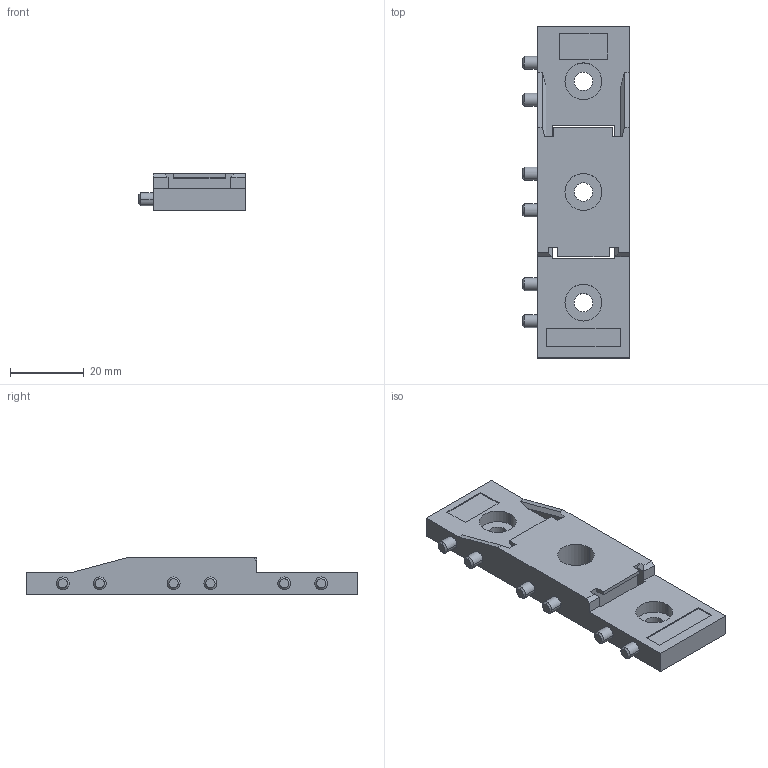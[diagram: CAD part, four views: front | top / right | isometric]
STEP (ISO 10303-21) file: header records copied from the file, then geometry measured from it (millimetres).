
FILE_DESCRIPTION (( 'STEP AP203' ), '1' );
FILE_NAME ('afp0803.STEP', '2015-07-03T01:57:18', ( '' ), ( '' ), 'SwSTEP 2.0', 'SolidWorks 2010', '' );
FILE_SCHEMA (( 'CONFIG_CONTROL_DESIGN' ));
Length unit declared in the file: millimetre
Products named in the file (1): afp0803
Bounding box: 29 x 90 x 10 mm (x, y, z)
Volume: 14811.8 mm3; surface area: 7961 mm2
Topology: 1 solids, 1 shells, 109 faces, 274 edges, 182 vertices
Faces by surface type: plane 61, cylinder 36, cone 12
Entity records: 3385 total; most frequent: DIRECTION 590, CARTESIAN_POINT 566, ORIENTED_EDGE 548, EDGE_CURVE 274, AXIS2_PLACEMENT_3D 206, VERTEX_POINT 182, LINE 178, VECTOR 178
